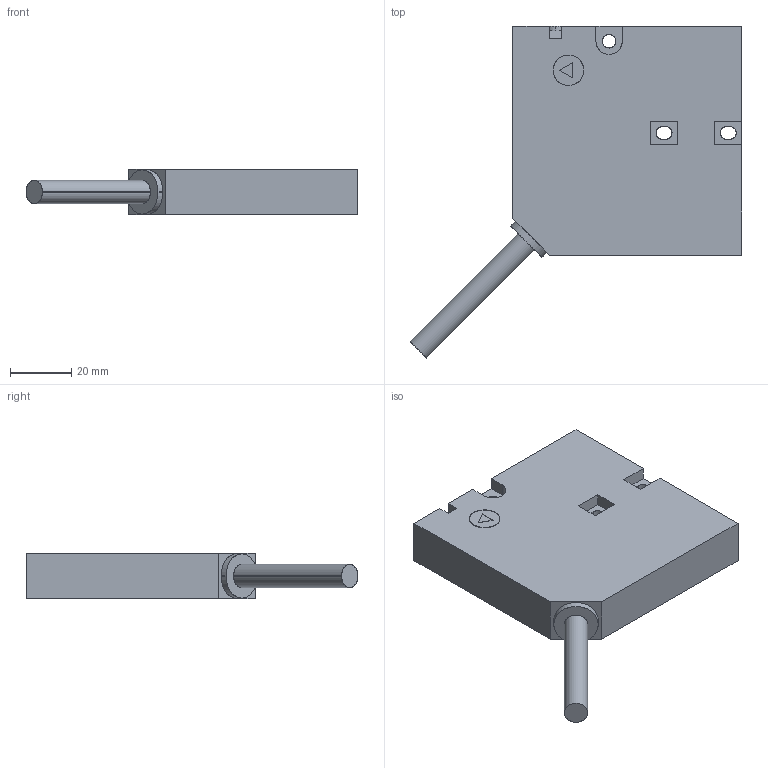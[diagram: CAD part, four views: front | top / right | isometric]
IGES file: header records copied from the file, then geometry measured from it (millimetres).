
Start section: SolidWorks IGES file using analytic representation for surfaces
Global section: file name: C:\catalog\sg-b1-sa-g1.IGS; native system: SolidWorks 2010; preprocessor: SolidWorks 2010; author: kk1675; date: 130723.125535; units: millimetre
Bounding box: 108.67 x 108.67 x 15 mm (x, y, z)
Surface area: 18695.2 mm2 (no closed solid volume)
Topology: 0 solids, 0 shells, 107 faces, 1191 edges, 1191 vertices
Faces by surface type: bspline 78, revolution 29
